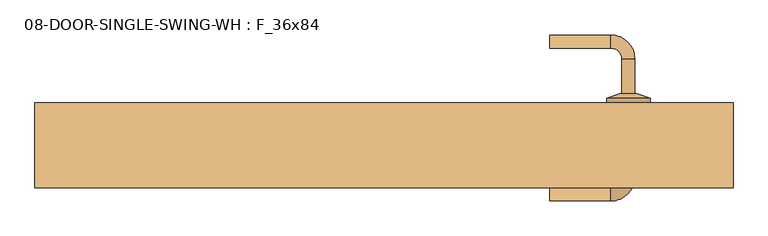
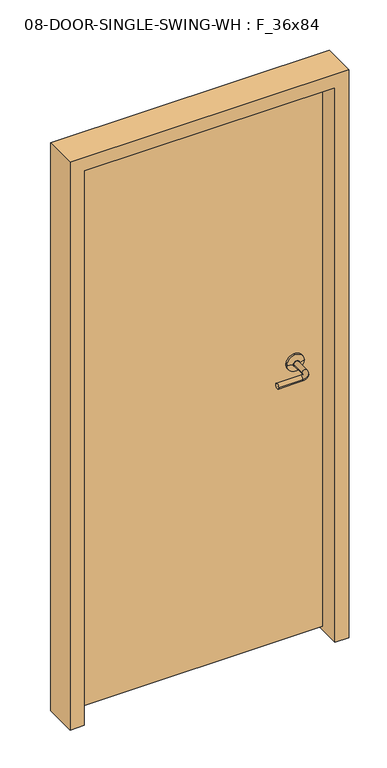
"""IFC4 building model written with IfcOpenShell, lengths in millimetres: door geometry, 08-DOOR-SINGLE-SWING-WH : F_36x84."""

from ifc_helpers import new_model, si_unit, point, frame, origin, place, context, project, spatial, polyline, circle_curve, ellipse_curve, trimmed, outline, extrude, source, transform, mapped, element, save
from ifc_brep_helpers import plane_surface, cylinder_surface, revolved_surface, advanced_brep


def door_08_door_single_swing_wh_f_36x84_2c5d5a85(model_context):
    return source(origin(), model_context, "Body", "SolidModel", [
        advanced_brep(
        [(364.4403202, 4.7625, 1066.8), (383.4903202, 4.7625, 1066.8), (383.4903202, -46.0375, 1066.8), (364.4403202, -46.0375, 1066.8), (348.5653202, -61.9125, 1066.8), (348.5653202, -80.9625, 1066.8), (259.6653202, -61.9125, 1066.8), (259.6653202, -80.9625, 1066.8)],
        [
            (0, 1, circle_curve(frame((373.9653202, 4.7625, 1066.8), z_axis=(0.0, 1.0, 0.0), x_axis=(1.0, 0.0, 0.0)), 9.525)),
            (1, 0, circle_curve(frame((373.9653202, 4.7625, 1066.8), z_axis=(0.0, 1.0, 0.0), x_axis=(1.0, 0.0, 0.0)), 9.525)),
            (1, 2),
            (2, 3, circle_curve(frame((373.9653202, -46.0375, 1066.8), z_axis=(0.0, 1.0, 0.0), x_axis=(1.0, 0.0, 0.0)), 9.525)),
            (3, 0),
            (3, 2, circle_curve(frame((373.9653202, -46.0375, 1066.8), z_axis=(0.0, 1.0, 0.0), x_axis=(1.0, 0.0, 0.0)), 9.525)),
            (4, 3, circle_curve(frame((348.5653202, -46.0375, 1066.8), z_axis=(0.0, 0.0, 1.0), x_axis=(1.0, 0.0, 0.0)), 15.875)),
            (2, 5, circle_curve(frame((348.5653202, -46.0375, 1066.8), z_axis=(0.0, 0.0, -1.0), x_axis=(1.0, 0.0, 0.0)), 34.925)),
            (5, 4, circle_curve(frame((348.5653202, -71.4375, 1066.8), z_axis=(1.0, 0.0, 0.0), x_axis=(0.0, -1.0, 0.0)), 9.525)),
            (4, 5, circle_curve(frame((348.5653202, -71.4375, 1066.8), z_axis=(1.0, 0.0, 0.0), x_axis=(0.0, -1.0, 0.0)), 9.525)),
            (6, 7, circle_curve(frame((259.6653202, -71.4375, 1066.8), z_axis=(-1.0, 0.0, 0.0), x_axis=(0.0, -1.0, 0.0)), 9.525)),
            (7, 6, circle_curve(frame((259.6653202, -71.4375, 1066.8), z_axis=(-1.0, 0.0, 0.0), x_axis=(0.0, -1.0, 0.0)), 9.525)),
            (5, 7),
            (6, 4),
        ],
        [
            plane_surface(frame((373.9653202, 4.7625, 1066.8), z_axis=(0.0, 1.0, 0.0), x_axis=(0.0, 0.0, 1.0))),
            cylinder_surface(frame((373.9653202, 4.7625, 1066.8), z_axis=(0.0, 1.0, 0.0), x_axis=(1.0, 0.0, 0.0)), 9.525),
            revolved_surface(trimmed(ellipse_curve(frame((373.9653202, -46.0375, 1066.8), z_axis=(0.0, 1.0, 0.0), x_axis=(1.0, 0.0, 0.0)), 9.525, 9.525), [point((383.4903202, -46.0375, 1066.8))], [point((364.4403202, -46.0375, 1066.8))], True, "CARTESIAN"), (348.5653202, -46.0375, 1066.8), (0.0, 0.0, -1.0)),
            revolved_surface(trimmed(ellipse_curve(frame((373.9653202, -46.0375, 1066.8), z_axis=(0.0, 1.0, 0.0), x_axis=(1.0, 0.0, 0.0)), 9.525, 9.525), [point((364.4403202, -46.0375, 1066.8))], [point((383.4903202, -46.0375, 1066.8))], True, "CARTESIAN"), (348.5653202, -46.0375, 1066.8), (0.0, 0.0, -1.0)),
            plane_surface(frame((259.6653202, -71.4375, 1066.8), z_axis=(-1.0, 0.0, 0.0), x_axis=(0.0, 0.0, 1.0))),
            cylinder_surface(frame((348.5653202, -71.4375, 1066.8), z_axis=(1.0, 0.0, 0.0), x_axis=(0.0, -1.0, 0.0)), 9.525),
        ],
        [
            (0, [[1, 2]]),
            (1, [[-2, 3, 4, 5]]),
            (1, [[-1, -5, 6, -3]]),
            (2, [[7, -4, 8, 9]]),
            (3, [[-8, -6, -7, 10]]),
            (4, [[11, 12]]),
            (5, [[-9, 13, -11, 14]]),
            (5, [[-10, -14, -12, -13]]),
        ],
    ),
        advanced_brep(
        [(373.9653202, 17.4625, 1066.8), (405.7153202, 17.4625, 1066.8), (342.2153202, 17.4625, 1066.8), (405.7153202, 11.1125, 1066.8), (342.2153202, 11.1125, 1066.8), (386.6653202, 4.7625, 1066.8), (361.2653202, 4.7625, 1066.8), (373.9653202, 4.7625, 1066.8)],
        [
            (0, 1),
            (1, 2, circle_curve(frame((373.9653202, 17.4625, 1066.8), z_axis=(0.0, 1.0, 0.0), x_axis=(1.0, 0.0, 0.0)), 31.75)),
            (2, 0),
            (2, 1, circle_curve(frame((373.9653202, 17.4625, 1066.8), z_axis=(0.0, 1.0, 0.0), x_axis=(1.0, 0.0, 0.0)), 31.75)),
            (1, 3),
            (3, 4, circle_curve(frame((373.9653202, 11.1125, 1066.8), z_axis=(0.0, 1.0, 0.0), x_axis=(1.0, 0.0, 0.0)), 31.75)),
            (4, 2),
            (4, 3, circle_curve(frame((373.9653202, 11.1125, 1066.8), z_axis=(0.0, 1.0, 0.0), x_axis=(1.0, 0.0, 0.0)), 31.75)),
            (3, 5),
            (5, 6, circle_curve(frame((373.9653202, 4.7625, 1066.8), z_axis=(0.0, 1.0, 0.0), x_axis=(1.0, 0.0, 0.0)), 12.7)),
            (6, 4),
            (6, 5, circle_curve(frame((373.9653202, 4.7625, 1066.8), z_axis=(0.0, 1.0, 0.0), x_axis=(1.0, 0.0, 0.0)), 12.7)),
            (5, 7),
            (7, 6),
        ],
        [
            plane_surface(frame((373.9653202, 17.4625, 1066.8), z_axis=(0.0, 1.0, 0.0), x_axis=(1.0, 0.0, 0.0))),
            cylinder_surface(frame((373.9653202, 7.8543504, 1066.8), z_axis=(0.0, 1.0, 0.0), x_axis=(1.0, 0.0, 0.0)), 31.75),
            revolved_surface(polyline([(386.6653202, 4.7625, 1066.8), (405.7153202, 11.1125, 1066.8)]), (373.9653202, 7.8543504, 1066.8), (0.0, 1.0, 0.0)),
            plane_surface(frame((373.9653202, 4.7625, 1066.8), z_axis=(0.0, -1.0, 0.0), x_axis=(1.0, 0.0, 0.0))),
        ],
        [
            (0, [[1, 2, 3]]),
            (0, [[-3, 4, -1]]),
            (1, [[-2, 5, 6, 7]]),
            (1, [[-4, -7, 8, -5]]),
            (2, [[-6, 9, 10, 11]]),
            (2, [[-8, -11, 12, -9]]),
            (3, [[-10, 13, 14]]),
            (3, [[-12, -14, -13]]),
        ],
    ),
        advanced_brep(
        [(383.4903202, 74.6125, 1066.8), (364.4403202, 74.6125, 1066.8), (383.4903202, 125.4125, 1066.8), (364.4403202, 125.4125, 1066.8), (348.5653202, 141.2875, 1066.8), (348.5653202, 160.3375, 1066.8), (259.6653202, 160.3375, 1066.8), (259.6653202, 141.2875, 1066.8)],
        [
            (0, 1, circle_curve(frame((373.9653202, 74.6125, 1066.8), z_axis=(0.0, -1.0, 0.0), x_axis=(-1.0, 0.0, 0.0)), 9.525)),
            (1, 0, circle_curve(frame((373.9653202, 74.6125, 1066.8), z_axis=(0.0, -1.0, 0.0), x_axis=(-1.0, 0.0, 0.0)), 9.525)),
            (0, 2),
            (2, 3, circle_curve(frame((373.9653202, 125.4125, 1066.8), z_axis=(0.0, -1.0, 0.0), x_axis=(-1.0, 0.0, 0.0)), 9.525)),
            (3, 1),
            (3, 2, circle_curve(frame((373.9653202, 125.4125, 1066.8), z_axis=(0.0, -1.0, 0.0), x_axis=(-1.0, 0.0, 0.0)), 9.525)),
            (4, 3, circle_curve(frame((348.5653202, 125.4125, 1066.8), z_axis=(0.0, 0.0, -1.0), x_axis=(1.0, 0.0, 0.0)), 15.875)),
            (2, 5, circle_curve(frame((348.5653202, 125.4125, 1066.8), z_axis=(0.0, 0.0, 1.0), x_axis=(1.0, 0.0, 0.0)), 34.925)),
            (5, 4, circle_curve(frame((348.5653202, 150.8125, 1066.8), z_axis=(1.0, 0.0, 0.0), x_axis=(0.0, -1.0, 0.0)), 9.525)),
            (4, 5, circle_curve(frame((348.5653202, 150.8125, 1066.8), z_axis=(1.0, 0.0, 0.0), x_axis=(0.0, -1.0, 0.0)), 9.525)),
            (6, 7, circle_curve(frame((259.6653202, 150.8125, 1066.8), z_axis=(-1.0, 0.0, 0.0), x_axis=(0.0, -1.0, 0.0)), 9.525)),
            (7, 6, circle_curve(frame((259.6653202, 150.8125, 1066.8), z_axis=(-1.0, 0.0, 0.0), x_axis=(0.0, -1.0, 0.0)), 9.525)),
            (5, 6),
            (7, 4),
        ],
        [
            plane_surface(frame((373.9653202, 74.6125, 1066.8), z_axis=(0.0, -1.0, 0.0), x_axis=(0.0, 0.0, 1.0))),
            cylinder_surface(frame((373.9653202, 74.6125, 1066.8), z_axis=(0.0, -1.0, 0.0), x_axis=(-1.0, 0.0, 0.0)), 9.525),
            revolved_surface(trimmed(ellipse_curve(frame((373.9653202, 125.4125, 1066.8), z_axis=(0.0, -1.0, 0.0), x_axis=(-1.0, 0.0, 0.0)), 9.525, 9.525), [point((383.4903202, 125.4125, 1066.8))], [point((364.4403202, 125.4125, 1066.8))], True, "CARTESIAN"), (348.5653202, 125.4125, 1066.8), (0.0, 0.0, 1.0)),
            revolved_surface(trimmed(ellipse_curve(frame((373.9653202, 125.4125, 1066.8), z_axis=(0.0, -1.0, 0.0), x_axis=(-1.0, 0.0, 0.0)), 9.525, 9.525), [point((364.4403202, 125.4125, 1066.8))], [point((383.4903202, 125.4125, 1066.8))], True, "CARTESIAN"), (348.5653202, 125.4125, 1066.8), (0.0, 0.0, 1.0)),
            plane_surface(frame((259.6653202, 150.8125, 1066.8), z_axis=(-1.0, 0.0, 0.0), x_axis=(0.0, 0.0, 1.0))),
            cylinder_surface(frame((348.5653202, 150.8125, 1066.8), z_axis=(1.0, 0.0, 0.0), x_axis=(0.0, -1.0, 0.0)), 9.525),
        ],
        [
            (0, [[1, 2]]),
            (1, [[-1, 3, 4, 5]]),
            (1, [[-2, -5, 6, -3]]),
            (2, [[7, -4, 8, 9]]),
            (3, [[-8, -6, -7, 10]]),
            (4, [[11, 12]]),
            (5, [[-9, 13, -12, 14]]),
            (5, [[-10, -14, -11, -13]]),
        ],
    ),
        advanced_brep(
        [(342.2153202, 61.9125, 1066.8), (405.7153202, 61.9125, 1066.8), (373.9653202, 61.9125, 1066.8), (342.2153202, 68.2625, 1066.8), (405.7153202, 68.2625, 1066.8), (361.2653202, 74.6125, 1066.8), (386.6653202, 74.6125, 1066.8), (373.9653202, 74.6125, 1066.8)],
        [
            (0, 1, circle_curve(frame((373.9653202, 61.9125, 1066.8), z_axis=(0.0, -1.0, 0.0), x_axis=(1.0, 0.0, 0.0)), 31.75)),
            (1, 2),
            (2, 0),
            (1, 0, circle_curve(frame((373.9653202, 61.9125, 1066.8), z_axis=(0.0, -1.0, 0.0), x_axis=(1.0, 0.0, 0.0)), 31.75)),
            (3, 4, circle_curve(frame((373.9653202, 68.2625, 1066.8), z_axis=(0.0, -1.0, 0.0), x_axis=(1.0, 0.0, 0.0)), 31.75)),
            (4, 1),
            (0, 3),
            (4, 3, circle_curve(frame((373.9653202, 68.2625, 1066.8), z_axis=(0.0, -1.0, 0.0), x_axis=(1.0, 0.0, 0.0)), 31.75)),
            (5, 6, circle_curve(frame((373.9653202, 74.6125, 1066.8), z_axis=(0.0, -1.0, 0.0), x_axis=(1.0, 0.0, 0.0)), 12.7)),
            (6, 4),
            (3, 5),
            (6, 5, circle_curve(frame((373.9653202, 74.6125, 1066.8), z_axis=(0.0, -1.0, 0.0), x_axis=(1.0, 0.0, 0.0)), 12.7)),
            (7, 6),
            (5, 7),
        ],
        [
            plane_surface(frame((373.9653202, 61.9125, 1066.8), z_axis=(0.0, -1.0, 0.0), x_axis=(1.0, 0.0, 0.0))),
            cylinder_surface(frame((373.9653202, 71.5206496, 1066.8), z_axis=(0.0, 1.0, 0.0), x_axis=(1.0, 0.0, 0.0)), 31.75),
            revolved_surface(polyline([(405.7153202, 68.2625, 1066.8), (386.6653202, 74.6125, 1066.8)]), (373.9653202, 71.5206496, 1066.8), (0.0, 1.0, 0.0)),
            plane_surface(frame((373.9653202, 74.6125, 1066.8), z_axis=(0.0, 1.0, 0.0), x_axis=(1.0, 0.0, 0.0))),
        ],
        [
            (0, [[1, 2, 3]]),
            (0, [[4, -3, -2]]),
            (1, [[5, 6, -1, 7]]),
            (1, [[8, -7, -4, -6]]),
            (2, [[9, 10, -5, 11]]),
            (2, [[12, -11, -8, -10]]),
            (3, [[13, -9, 14]]),
            (3, [[-14, -12, -13]]),
        ],
    ),
        extrude(outline(polyline([(475.5653202, 17.4625), (-438.8346798, 17.4625), (-438.8346798, 61.9125), (475.5653202, 61.9125), (475.5653202, 17.4625)])), frame((0.0, 0.0, 12.7), z_axis=(0.0, 0.0, 1.0), x_axis=(1.0, 0.0, 0.0)), (0.0, 0.0, 1.0), 2120.9),
        extrude(outline(polyline([(0.0, 475.5653202), (0.0, 526.3653202), (2184.4, 526.3653202), (2184.4, -489.6346798), (0.0, -489.6346798), (0.0, -438.8346798), (2133.6, -438.8346798), (2133.6, 475.5653202), (0.0, 475.5653202)])), frame((0.0, -61.9125, 0.0), z_axis=(0.0, 1.0, 0.0), x_axis=(0.0, 0.0, 1.0)), (0.0, 0.0, 1.0), 123.825),
    ])


if __name__ == "__main__":
    model = new_model("IFC4")
    model_context = context("Model", 3, world=origin())
    ifc_project = project(units=[si_unit("LENGTHUNIT", "METRE", prefix="MILLI")], contexts=[model_context])
    site = spatial("IfcSite", under=ifc_project)
    building = spatial("IfcBuilding", under=site)
    placement = place(None, origin())
    door_08_door_single_swing_wh_f_36x84_shape = door_08_door_single_swing_wh_f_36x84_2c5d5a85(model_context)
    element("IfcDoor", 1, ObjectType="08-DOOR-SINGLE-SWING-WH : F_36x84", at=placement, inside=building, context=model_context, shape_type="MappedRepresentation", body=[
        mapped(door_08_door_single_swing_wh_f_36x84_shape, transform((0.0, 0.0, 0.0), x_axis=(1.0, 0.0, 0.0), y_axis=(0.0, 1.0, 0.0), z_axis=(0.0, 0.0, 1.0))),
    ])
    save(model, "model.ifc")
